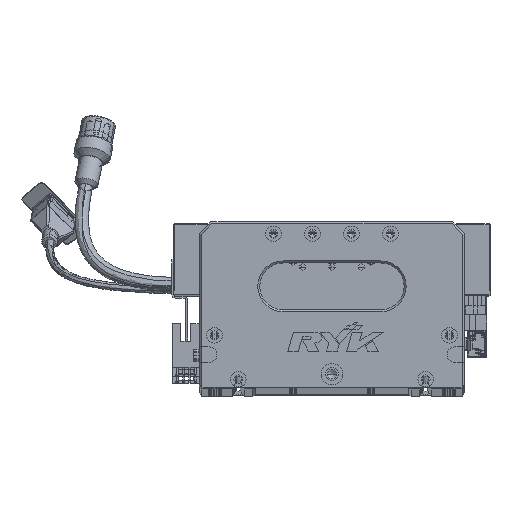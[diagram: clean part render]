
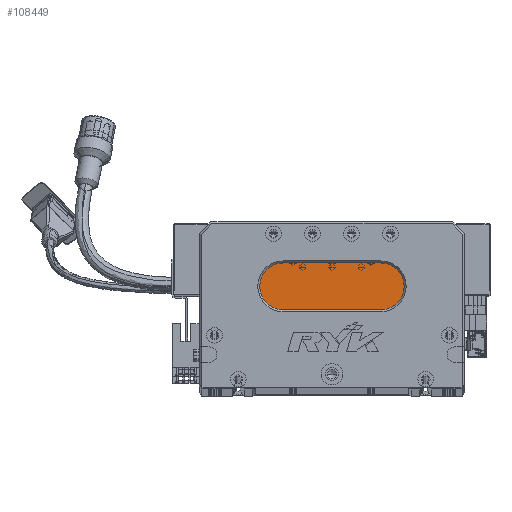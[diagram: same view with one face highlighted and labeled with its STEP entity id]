
A CAD part, top view. The second image highlights one B-rep face of the part: STEP entity #108449.
In plain terms, the highlighted planar face has unit normal (0, 0, 1) as drawn and (0, 0, -1) by its records, which use the part's own axes.
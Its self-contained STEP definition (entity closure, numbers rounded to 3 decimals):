
#1333 = AXIS2_PLACEMENT_3D ( 'NONE', #63174, #44831, #63576 ) ;
#6333 = CARTESIAN_POINT ( 'NONE',  ( 43., 52., 13. ) ) ;
#12179 = VECTOR ( 'NONE', #85438, 1000. ) ;
#15706 = VERTEX_POINT ( 'NONE', #51097 ) ;
#17065 = EDGE_LOOP ( 'NONE', ( #66281, #47877, #95777, #56540, #37832 ) ) ;
#18526 = LINE ( 'NONE', #110991, #111387 ) ;
#21583 = CARTESIAN_POINT ( 'NONE',  ( 93., 64., 13. ) ) ;
#23869 = DIRECTION ( 'NONE',  ( 0., 0., -1. ) ) ;
#24263 = DIRECTION ( 'NONE',  ( -1., 0., 0. ) ) ;
#27589 = VERTEX_POINT ( 'NONE', #55442 ) ;
#27629 = EDGE_CURVE ( 'NONE', #75845, #85424, #18526, .T. ) ;
#34075 = FACE_OUTER_BOUND ( 'NONE', #17065, .T. ) ;
#36246 = CIRCLE ( 'NONE', #45392, 12. ) ;
#37832 = ORIENTED_EDGE ( 'NONE', *, *, #111901, .T. ) ;
#38045 = CIRCLE ( 'NONE', #58526, 12. ) ;
#42850 = CARTESIAN_POINT ( 'NONE',  ( 43., 40., 13. ) ) ;
#44514 = DIRECTION ( 'NONE',  ( 0., 0., -1. ) ) ;
#44831 = DIRECTION ( 'NONE',  ( 0., 0., -1. ) ) ;
#45392 = AXIS2_PLACEMENT_3D ( 'NONE', #6333, #23869, #24263 ) ;
#47877 = ORIENTED_EDGE ( 'NONE', *, *, #27629, .T. ) ;
#49085 = LINE ( 'NONE', #21583, #12179 ) ;
#51097 = CARTESIAN_POINT ( 'NONE',  ( 93., 64., 13. ) ) ;
#54351 = EDGE_CURVE ( 'NONE', #100105, #27589, #38045, .T. ) ;
#54358 = PLANE ( 'NONE',  #1333 ) ;
#54361 = EDGE_CURVE ( 'NONE', #15706, #75845, #109383, .T. ) ;
#55442 = CARTESIAN_POINT ( 'NONE',  ( 43., 64., 13. ) ) ;
#56540 = ORIENTED_EDGE ( 'NONE', *, *, #54351, .T. ) ;
#58526 = AXIS2_PLACEMENT_3D ( 'NONE', #82036, #99248, #81657 ) ;
#58904 = CARTESIAN_POINT ( 'NONE',  ( 93., 40., 13. ) ) ;
#60799 = AXIS2_PLACEMENT_3D ( 'NONE', #108791, #44514, #82426 ) ;
#63174 = CARTESIAN_POINT ( 'NONE',  ( 93., 52., 13. ) ) ;
#63576 = DIRECTION ( 'NONE',  ( -1., 0., 0. ) ) ;
#66281 = ORIENTED_EDGE ( 'NONE', *, *, #54361, .T. ) ;
#67521 = EDGE_CURVE ( 'NONE', #85424, #100105, #36246, .T. ) ;
#75499 = CARTESIAN_POINT ( 'NONE',  ( 31., 52., 13. ) ) ;
#75845 = VERTEX_POINT ( 'NONE', #58904 ) ;
#81657 = DIRECTION ( 'NONE',  ( -1., 0., 0. ) ) ;
#82036 = CARTESIAN_POINT ( 'NONE',  ( 43., 52., 13. ) ) ;
#82426 = DIRECTION ( 'NONE',  ( -1., 0., 0. ) ) ;
#85424 = VERTEX_POINT ( 'NONE', #42850 ) ;
#85438 = DIRECTION ( 'NONE',  ( 1., 0., 0. ) ) ;
#95777 = ORIENTED_EDGE ( 'NONE', *, *, #67521, .T. ) ;
#99248 = DIRECTION ( 'NONE',  ( 0., 0., -1. ) ) ;
#100105 = VERTEX_POINT ( 'NONE', #75499 ) ;
#101834 = DIRECTION ( 'NONE',  ( -1., 0., 0. ) ) ;
#108449 = ADVANCED_FACE ( 'NONE', ( #34075 ), #54358, .T. ) ;
#108791 = CARTESIAN_POINT ( 'NONE',  ( 93., 52., 13. ) ) ;
#109383 = CIRCLE ( 'NONE', #60799, 12. ) ;
#110991 = CARTESIAN_POINT ( 'NONE',  ( 93., 40., 13. ) ) ;
#111387 = VECTOR ( 'NONE', #101834, 1000. ) ;
#111901 = EDGE_CURVE ( 'NONE', #27589, #15706, #49085, .T. ) ;
